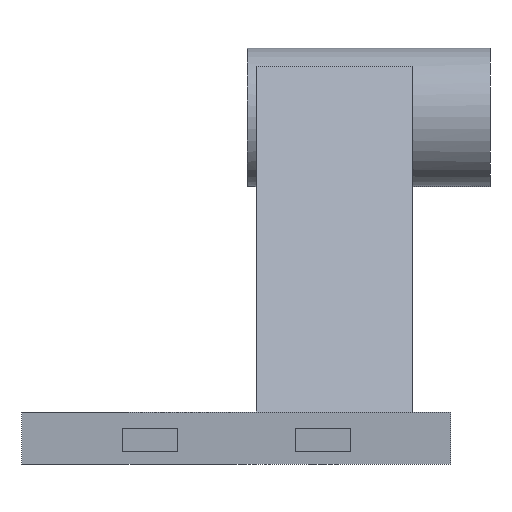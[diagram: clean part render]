
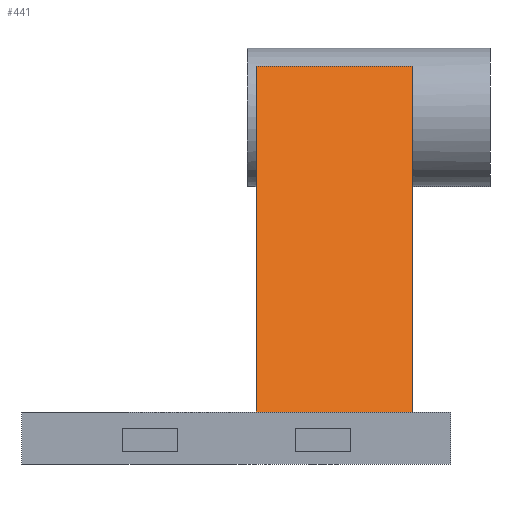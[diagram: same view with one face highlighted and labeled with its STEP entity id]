
A CAD part, front view. The second image highlights one B-rep face of the part: STEP entity #441.
In plain terms, the highlighted planar face has unit normal (0, -0.634, 0.773).
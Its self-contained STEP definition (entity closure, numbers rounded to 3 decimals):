
#31 = CYLINDRICAL_SURFACE('',#32,8.);
#32 = AXIS2_PLACEMENT_3D('',#33,#34,#35);
#33 = CARTESIAN_POINT('',(-10.,0.,0.));
#34 = DIRECTION('',(-1.,-0.,-0.));
#35 = DIRECTION('',(0.,-1.,0.));
#95 = PLANE('',#96);
#96 = AXIS2_PLACEMENT_3D('',#97,#98,#99);
#97 = CARTESIAN_POINT('',(-9.,-22.414,-18.152));
#98 = DIRECTION('',(1.,0.,0.));
#99 = DIRECTION('',(-0.,0.,1.));
#154 = PLANE('',#155);
#155 = AXIS2_PLACEMENT_3D('',#156,#157,#158);
#156 = CARTESIAN_POINT('',(9.,-22.414,-18.152));
#157 = DIRECTION('',(1.,0.,0.));
#158 = DIRECTION('',(-0.,0.,1.));
#222 = VERTEX_POINT('',#223);
#223 = CARTESIAN_POINT('',(9.,-5.432,5.873));
#249 = EDGE_CURVE('',#222,#250,#252,.T.);
#250 = VERTEX_POINT('',#251);
#251 = CARTESIAN_POINT('',(-9.,-5.432,5.873));
#252 = SURFACE_CURVE('',#253,(#257,#263),.PCURVE_S1.);
#253 = LINE('',#254,#255);
#254 = CARTESIAN_POINT('',(-10.,-5.432,5.873));
#255 = VECTOR('',#256,1.);
#256 = DIRECTION('',(-1.,-0.,-0.));
#257 = PCURVE('',#31,#258);
#258 = DEFINITIONAL_REPRESENTATION('',(#259),#262);
#259 = B_SPLINE_CURVE_WITH_KNOTS('',1,(#260,#261),.UNSPECIFIED.,.F.,.F.,
  (2,2),(-20.8,0.),.PIECEWISE_BEZIER_KNOTS.);
#260 = CARTESIAN_POINT('',(-5.459,-20.8));
#261 = CARTESIAN_POINT('',(-5.459,0.));
#262 = ( GEOMETRIC_REPRESENTATION_CONTEXT(2) 
PARAMETRIC_REPRESENTATION_CONTEXT() REPRESENTATION_CONTEXT('2D SPACE',''
  ) );
#263 = PCURVE('',#264,#269);
#264 = PLANE('',#265);
#265 = AXIS2_PLACEMENT_3D('',#266,#267,#268);
#266 = CARTESIAN_POINT('',(-9.,-4.702,6.472));
#267 = DIRECTION('',(0.,0.635,-0.773));
#268 = DIRECTION('',(0.,-0.773,-0.635));
#269 = DEFINITIONAL_REPRESENTATION('',(#270),#273);
#270 = B_SPLINE_CURVE_WITH_KNOTS('',1,(#271,#272),.UNSPECIFIED.,.F.,.F.,
  (2,2),(-20.8,0.),.PIECEWISE_BEZIER_KNOTS.);
#271 = CARTESIAN_POINT('',(0.945,-19.8));
#272 = CARTESIAN_POINT('',(0.945,1.));
#273 = ( GEOMETRIC_REPRESENTATION_CONTEXT(2) 
PARAMETRIC_REPRESENTATION_CONTEXT() REPRESENTATION_CONTEXT('2D SPACE',''
  ) );
#344 = EDGE_CURVE('',#250,#345,#347,.T.);
#345 = VERTEX_POINT('',#346);
#346 = CARTESIAN_POINT('',(-9.,-54.,-34.));
#347 = SURFACE_CURVE('',#348,(#352,#359),.PCURVE_S1.);
#348 = LINE('',#349,#350);
#349 = CARTESIAN_POINT('',(-9.,-4.702,6.472));
#350 = VECTOR('',#351,1.);
#351 = DIRECTION('',(0.,-0.773,-0.635));
#352 = PCURVE('',#95,#353);
#353 = DEFINITIONAL_REPRESENTATION('',(#354),#358);
#354 = LINE('',#355,#356);
#355 = CARTESIAN_POINT('',(24.624,-17.711));
#356 = VECTOR('',#357,1.);
#357 = DIRECTION('',(-0.635,0.773));
#358 = ( GEOMETRIC_REPRESENTATION_CONTEXT(2) 
PARAMETRIC_REPRESENTATION_CONTEXT() REPRESENTATION_CONTEXT('2D SPACE',''
  ) );
#359 = PCURVE('',#264,#360);
#360 = DEFINITIONAL_REPRESENTATION('',(#361),#365);
#361 = LINE('',#362,#363);
#362 = CARTESIAN_POINT('',(0.,0.));
#363 = VECTOR('',#364,1.);
#364 = DIRECTION('',(1.,0.));
#365 = ( GEOMETRIC_REPRESENTATION_CONTEXT(2) 
PARAMETRIC_REPRESENTATION_CONTEXT() REPRESENTATION_CONTEXT('2D SPACE',''
  ) );
#441 = ADVANCED_FACE('',(#442),#264,.F.);
#442 = FACE_BOUND('',#443,.F.);
#443 = EDGE_LOOP('',(#444,#445,#446,#469));
#444 = ORIENTED_EDGE('',*,*,#344,.F.);
#445 = ORIENTED_EDGE('',*,*,#249,.F.);
#446 = ORIENTED_EDGE('',*,*,#447,.T.);
#447 = EDGE_CURVE('',#222,#448,#450,.T.);
#448 = VERTEX_POINT('',#449);
#449 = CARTESIAN_POINT('',(9.,-54.,-34.));
#450 = SURFACE_CURVE('',#451,(#455,#462),.PCURVE_S1.);
#451 = LINE('',#452,#453);
#452 = CARTESIAN_POINT('',(9.,-4.702,6.472));
#453 = VECTOR('',#454,1.);
#454 = DIRECTION('',(0.,-0.773,-0.635));
#455 = PCURVE('',#264,#456);
#456 = DEFINITIONAL_REPRESENTATION('',(#457),#461);
#457 = LINE('',#458,#459);
#458 = CARTESIAN_POINT('',(0.,-18.));
#459 = VECTOR('',#460,1.);
#460 = DIRECTION('',(1.,0.));
#461 = ( GEOMETRIC_REPRESENTATION_CONTEXT(2) 
PARAMETRIC_REPRESENTATION_CONTEXT() REPRESENTATION_CONTEXT('2D SPACE',''
  ) );
#462 = PCURVE('',#154,#463);
#463 = DEFINITIONAL_REPRESENTATION('',(#464),#468);
#464 = LINE('',#465,#466);
#465 = CARTESIAN_POINT('',(24.624,-17.711));
#466 = VECTOR('',#467,1.);
#467 = DIRECTION('',(-0.635,0.773));
#468 = ( GEOMETRIC_REPRESENTATION_CONTEXT(2) 
PARAMETRIC_REPRESENTATION_CONTEXT() REPRESENTATION_CONTEXT('2D SPACE',''
  ) );
#469 = ORIENTED_EDGE('',*,*,#470,.F.);
#470 = EDGE_CURVE('',#345,#448,#471,.T.);
#471 = SURFACE_CURVE('',#472,(#476,#483),.PCURVE_S1.);
#472 = LINE('',#473,#474);
#473 = CARTESIAN_POINT('',(-9.,-54.,-34.));
#474 = VECTOR('',#475,1.);
#475 = DIRECTION('',(1.,0.,0.));
#476 = PCURVE('',#264,#477);
#477 = DEFINITIONAL_REPRESENTATION('',(#478),#482);
#478 = LINE('',#479,#480);
#479 = CARTESIAN_POINT('',(63.783,0.));
#480 = VECTOR('',#481,1.);
#481 = DIRECTION('',(0.,-1.));
#482 = ( GEOMETRIC_REPRESENTATION_CONTEXT(2) 
PARAMETRIC_REPRESENTATION_CONTEXT() REPRESENTATION_CONTEXT('2D SPACE',''
  ) );
#483 = PCURVE('',#484,#489);
#484 = PLANE('',#485);
#485 = AXIS2_PLACEMENT_3D('',#486,#487,#488);
#486 = CARTESIAN_POINT('',(-9.,-54.,-34.));
#487 = DIRECTION('',(-0.,1.,0.));
#488 = DIRECTION('',(0.,0.,-1.));
#489 = DEFINITIONAL_REPRESENTATION('',(#490),#494);
#490 = LINE('',#491,#492);
#491 = CARTESIAN_POINT('',(0.,0.));
#492 = VECTOR('',#493,1.);
#493 = DIRECTION('',(0.,-1.));
#494 = ( GEOMETRIC_REPRESENTATION_CONTEXT(2) 
PARAMETRIC_REPRESENTATION_CONTEXT() REPRESENTATION_CONTEXT('2D SPACE',''
  ) );
